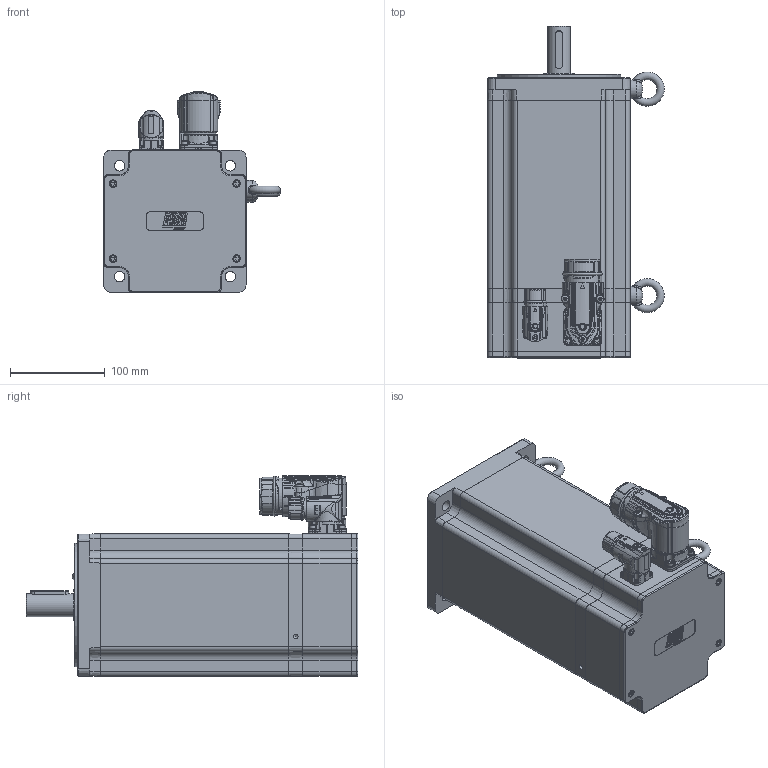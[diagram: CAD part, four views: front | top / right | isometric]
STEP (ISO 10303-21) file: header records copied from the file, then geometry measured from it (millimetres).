
FILE_DESCRIPTION(/* description */ ('Unknown'),/* implementation_level */ '2;1');
FILE_NAME(/* name */ 'TC4-150.6C.xx.x.3.A1.0.x.G3.00.00 Q0B754',/* time_stamp */ '2026-03-06T14:33:27+01:00',/* author */ ('Unknown'),/* organization */ ('Unknown'),/* preprocessor_version */ 'ST-DEVELOPER v19.4',/* originating_system */ 'Solid Edge',/* authorisation */ 'Unknown');
FILE_SCHEMA (('AUTOMOTIVE_DESIGN {1 0 10303 214 3 1 1}'));
Products named in the file (16): Q0B754 6C M1 VUOTO; 003251040619; 003155002229; 005113000600; 005321000040; 005911000252; 005911000185; 003103040237; 005911000223; Coperchio campana TC4-150; 005911000205; 007117000454; 005119002043; 003003200171; 003151003192; 007117000452
Assembly tree (28 placements, depth 2):
  Q0B754 6C M1 VUOTO
    003251040619
    003155002229
    005113000600
    005321000040  x2
    005911000252  x4
    005911000185  x4
    003103040237
    005911000223  x4
    Coperchio campana TC4-150
    005911000205  x4
    007117000454
    005119002043
    003003200171
    003151003192
    007117000452
Bounding box: 185.98 x 349.5 x 211.45 mm (x, y, z)
Volume: 2426948.4 mm3; surface area: 595450.6 mm2
Topology: 29 solids, 30 shells, 3328 faces, 8201 edges, 5083 vertices
Faces by surface type: plane 1219, bspline 690, cylinder 685, cone 316, torus 298, sphere 120
Full cylindrical faces by diameter (mm): 0.5 x1, 1 x17, 1.2 x17, 2 x4, 2.013 x4, 2.459 x2, 2.5 x4, 3 x5, 3.2 x1, 3.242 x12, 3.6 x5, 4 x11, 4.134 x16, 4.2 x1, 4.5 x9, 4.7 x4, 4.917 x6, 5 x6, 5.4 x1, 5.5 x9, 5.9 x1, 6 x3, 6.647 x2, 7 x8, 8 x11, 8.4 x1, 8.5 x4, 9 x4, 10 x5, 11 x4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
Entity records: 151044 total; most frequent: CARTESIAN_POINT 63420, ORIENTED_EDGE 14204, DIRECTION 11859, EDGE_CURVE 7102, VERTEX_POINT 4677, AXIS2_PLACEMENT_3D 4638, FACE_BOUND 3935, EDGE_LOOP 3915
